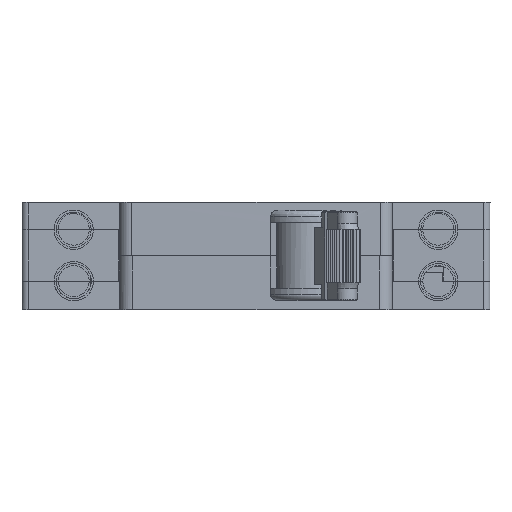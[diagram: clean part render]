
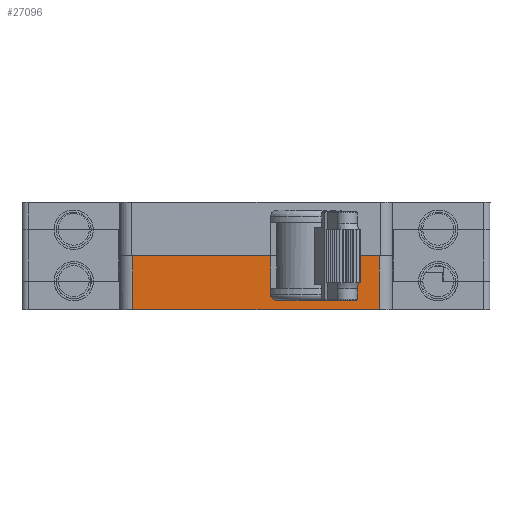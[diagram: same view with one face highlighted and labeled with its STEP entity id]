
A CAD part, front view. The second image highlights one B-rep face of the part: STEP entity #27096.
In plain terms, the highlighted planar face has unit normal (0, -1, 0) as drawn and (0, 1, 0) by its records, which use the part's own axes.
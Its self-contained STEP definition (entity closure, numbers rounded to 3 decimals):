
#1551 = CARTESIAN_POINT ( 'NONE',  ( -69.946, -30.412, -2.2 ) ) ;
#1608 = CARTESIAN_POINT ( 'NONE',  ( -75.384, -30.412, -4.7 ) ) ;
#1644 = CARTESIAN_POINT ( 'NONE',  ( -57.441, -30.412, -2.2 ) ) ;
#1645 = CARTESIAN_POINT ( 'NONE',  ( -75.384, -30.412, 4.2 ) ) ;
#1659 = CARTESIAN_POINT ( 'NONE',  ( -34.683, -30.412, -4.7 ) ) ;
#1868 = CARTESIAN_POINT ( 'NONE',  ( -57.446, -30.41, -1.2 ) ) ;
#1929 = CARTESIAN_POINT ( 'NONE',  ( -69.93, -30.405, -1.2 ) ) ;
#2003 = CARTESIAN_POINT ( 'NONE',  ( -58.661, -30.412, -3.2 ) ) ;
#2207 = CARTESIAN_POINT ( 'NONE',  ( -68.726, -30.412, -3.2 ) ) ;
#2284 = CARTESIAN_POINT ( 'NONE',  ( -34.683, -30.412, 4.2 ) ) ;
#2560 = CARTESIAN_POINT ( 'NONE',  ( -69.924, -30.412, 4.2 ) ) ;
#2838 = CARTESIAN_POINT ( 'NONE',  ( -57.454, -30.412, 4.2 ) ) ;
#4162 = CARTESIAN_POINT ( 'NONE',  ( -58.371, -30.412, -3.18 ) ) ;
#4171 = CARTESIAN_POINT ( 'NONE',  ( -58.514, -30.412, -3.2 ) ) ;
#4181 = CARTESIAN_POINT ( 'NONE',  ( -58.661, -30.412, -3.2 ) ) ;
#4182 = CARTESIAN_POINT ( 'NONE',  ( -69.924, -30.412, -3. ) ) ;
#4183 = CARTESIAN_POINT ( 'NONE',  ( -58.091, -30.412, -3.097 ) ) ;
#4185 = CARTESIAN_POINT ( 'NONE',  ( -57.958, -30.412, -3.034 ) ) ;
#4187 = CARTESIAN_POINT ( 'NONE',  ( -57.722, -30.412, -2.859 ) ) ;
#4189 = CARTESIAN_POINT ( 'NONE',  ( -57.621, -30.412, -2.748 ) ) ;
#4190 = CARTESIAN_POINT ( 'NONE',  ( -57.48, -30.412, -2.492 ) ) ;
#4192 = CARTESIAN_POINT ( 'NONE',  ( -57.441, -30.412, -2.348 ) ) ;
#4193 = CARTESIAN_POINT ( 'NONE',  ( -57.441, -30.412, -2.2 ) ) ;
#4263 = LINE ( 'NONE', #4182, #46998 ) ;
#4277 = DIRECTION ( 'NONE',  ( 0., 0., -1. ) ) ;
#4708 = LINE ( 'NONE', #4711, #47264 ) ;
#4711 = CARTESIAN_POINT ( 'NONE',  ( -75.384, -30.412, 59.617 ) ) ;
#4713 = DIRECTION ( 'NONE',  ( 0., 0., -1. ) ) ;
#4828 = LINE ( 'NONE', #4831, #47310 ) ;
#4831 = CARTESIAN_POINT ( 'NONE',  ( -55.034, -30.412, 4.2 ) ) ;
#4833 = DIRECTION ( 'NONE',  ( -1., 0., 0. ) ) ;
#4840 = CARTESIAN_POINT ( 'NONE',  ( -69.946, -30.412, -2.274 ) ) ;
#4844 = CARTESIAN_POINT ( 'NONE',  ( -69.936, -30.412, -2.346 ) ) ;
#4861 = CARTESIAN_POINT ( 'NONE',  ( -69.946, -30.412, -2.2 ) ) ;
#4863 = CARTESIAN_POINT ( 'NONE',  ( -69.9, -30.412, -2.487 ) ) ;
#4864 = CARTESIAN_POINT ( 'NONE',  ( -69.872, -30.412, -2.556 ) ) ;
#4866 = CARTESIAN_POINT ( 'NONE',  ( -69.767, -30.412, -2.747 ) ) ;
#4868 = CARTESIAN_POINT ( 'NONE',  ( -69.666, -30.412, -2.858 ) ) ;
#4870 = CARTESIAN_POINT ( 'NONE',  ( -69.431, -30.412, -3.033 ) ) ;
#4872 = CARTESIAN_POINT ( 'NONE',  ( -69.298, -30.412, -3.096 ) ) ;
#4873 = CARTESIAN_POINT ( 'NONE',  ( -69.017, -30.412, -3.18 ) ) ;
#4875 = CARTESIAN_POINT ( 'NONE',  ( -68.873, -30.412, -3.2 ) ) ;
#4877 = CARTESIAN_POINT ( 'NONE',  ( -68.726, -30.412, -3.2 ) ) ;
#5135 = LINE ( 'NONE', #5137, #47720 ) ;
#5137 = CARTESIAN_POINT ( 'NONE',  ( -55.034, -30.412, 4.2 ) ) ;
#5138 = DIRECTION ( 'NONE',  ( -1., 0., 0. ) ) ;
#5245 = LINE ( 'NONE', #5248, #47640 ) ;
#5248 = CARTESIAN_POINT ( 'NONE',  ( -57.441, -30.412, -1.2 ) ) ;
#5250 = DIRECTION ( 'NONE',  ( 0., 0., -1. ) ) ;
#6777 = EDGE_LOOP ( 'NONE', ( #49490, #49426, #48992, #49356, #49420, #48474, #48825, #48471, #49338, #48707, #48619, #48553 ) ) ;
#6835 = EDGE_CURVE ( 'NONE', #63269, #63625, #12357, .T. ) ;
#6849 = EDGE_CURVE ( 'NONE', #62665, #63770, #12376, .T. ) ;
#12357 = LINE ( 'NONE', #12358, #20411 ) ;
#12358 = CARTESIAN_POINT ( 'NONE',  ( -57.441, -30.412, -3.2 ) ) ;
#12363 = DIRECTION ( 'NONE',  ( -1., 0., 0. ) ) ;
#12374 = CARTESIAN_POINT ( 'NONE',  ( -34.683, -30.412, 59.617 ) ) ;
#12376 = LINE ( 'NONE', #12374, #20384 ) ;
#12381 = DIRECTION ( 'NONE',  ( 0., 0., 1. ) ) ;
#16731 = EDGE_CURVE ( 'NONE', #62449, #63141, #33559, .T. ) ;
#16740 = EDGE_CURVE ( 'NONE', #63028, #64482, #54279, .T. ) ;
#16779 = EDGE_CURVE ( 'NONE', #62563, #62665, #33702, .T. ) ;
#16980 = EDGE_CURVE ( 'NONE', #63269, #62635, #54358, .T. ) ;
#16985 = EDGE_CURVE ( 'NONE', #64255, #63141, #4263, .T. ) ;
#17052 = EDGE_CURVE ( 'NONE', #62637, #62563, #4708, .T. ) ;
#17062 = EDGE_CURVE ( 'NONE', #64255, #62637, #4828, .T. ) ;
#17067 = EDGE_CURVE ( 'NONE', #62449, #63625, #54381, .T. ) ;
#17088 = EDGE_CURVE ( 'NONE', #63770, #64482, #5135, .T. ) ;
#17096 = EDGE_CURVE ( 'NONE', #63028, #62635, #5245, .T. ) ;
#20384 = VECTOR ( 'NONE', #12381, 1000. ) ;
#20411 = VECTOR ( 'NONE', #12363, 1000. ) ;
#27096 = ADVANCED_FACE ( 'NONE', ( #69456 ), #69457, .T. ) ;
#33559 = LINE ( 'NONE', #33579, #47094 ) ;
#33579 = CARTESIAN_POINT ( 'NONE',  ( -69.946, -30.412, -3. ) ) ;
#33581 = DIRECTION ( 'NONE',  ( 0., 0., 1. ) ) ;
#33599 = CARTESIAN_POINT ( 'NONE',  ( -57.449, -30.412, 0.6 ) ) ;
#33600 = CARTESIAN_POINT ( 'NONE',  ( -57.451, -30.412, 2.4 ) ) ;
#33606 = CARTESIAN_POINT ( 'NONE',  ( -57.446, -30.41, -1.2 ) ) ;
#33608 = CARTESIAN_POINT ( 'NONE',  ( -57.454, -30.412, 4.2 ) ) ;
#33702 = LINE ( 'NONE', #33735, #47501 ) ;
#33735 = CARTESIAN_POINT ( 'NONE',  ( -75.384, -30.412, -4.7 ) ) ;
#33736 = DIRECTION ( 'NONE',  ( 1., 0., 0. ) ) ;
#46829 = AXIS2_PLACEMENT_3D ( 'NONE', #69442, #69463, #69464 ) ;
#46998 = VECTOR ( 'NONE', #4277, 1000. ) ;
#47094 = VECTOR ( 'NONE', #33581, 1000. ) ;
#47264 = VECTOR ( 'NONE', #4713, 1000. ) ;
#47310 = VECTOR ( 'NONE', #4833, 1000. ) ;
#47501 = VECTOR ( 'NONE', #33736, 1000. ) ;
#47640 = VECTOR ( 'NONE', #5250, 1000. ) ;
#47720 = VECTOR ( 'NONE', #5138, 1000. ) ;
#48471 = ORIENTED_EDGE ( 'NONE', *, *, #6835, .F. ) ;
#48474 = ORIENTED_EDGE ( 'NONE', *, *, #16731, .F. ) ;
#48553 = ORIENTED_EDGE ( 'NONE', *, *, #17088, .F. ) ;
#48619 = ORIENTED_EDGE ( 'NONE', *, *, #16740, .T. ) ;
#48707 = ORIENTED_EDGE ( 'NONE', *, *, #17096, .F. ) ;
#48825 = ORIENTED_EDGE ( 'NONE', *, *, #17067, .T. ) ;
#48992 = ORIENTED_EDGE ( 'NONE', *, *, #17052, .F. ) ;
#49338 = ORIENTED_EDGE ( 'NONE', *, *, #16980, .T. ) ;
#49356 = ORIENTED_EDGE ( 'NONE', *, *, #17062, .F. ) ;
#49420 = ORIENTED_EDGE ( 'NONE', *, *, #16985, .T. ) ;
#49426 = ORIENTED_EDGE ( 'NONE', *, *, #16779, .F. ) ;
#49490 = ORIENTED_EDGE ( 'NONE', *, *, #6849, .F. ) ;
#54279 = B_SPLINE_CURVE_WITH_KNOTS ( 'NONE', 3,
 ( #33606, #33599, #33600, #33608 ),
 .UNSPECIFIED., .F., .F.,
 ( 4, 4 ),
 ( 0., 1. ),
 .UNSPECIFIED. ) ;
#54358 = B_SPLINE_CURVE_WITH_KNOTS ( 'NONE', 3,
 ( #4181, #4171, #4162, #4183, #4185, #4187, #4189, #4190, #4192, #4193 ),
 .UNSPECIFIED., .F., .F.,
 ( 4, 2, 2, 2, 4 ),
 ( 0., 0., 0.001, 0.001, 0.002 ),
 .UNSPECIFIED. ) ;
#54381 = B_SPLINE_CURVE_WITH_KNOTS ( 'NONE', 3,
 ( #4861, #4840, #4844, #4863, #4864, #4866, #4868, #4870, #4872, #4873, #4875, #4877 ),
 .UNSPECIFIED., .F., .F.,
 ( 4, 2, 2, 2, 2, 4 ),
 ( 0., 0., 0., 0.001, 0.001, 0.002 ),
 .UNSPECIFIED. ) ;
#62449 = VERTEX_POINT ( 'NONE', #1551 ) ;
#62563 = VERTEX_POINT ( 'NONE', #1608 ) ;
#62635 = VERTEX_POINT ( 'NONE', #1644 ) ;
#62637 = VERTEX_POINT ( 'NONE', #1645 ) ;
#62665 = VERTEX_POINT ( 'NONE', #1659 ) ;
#63028 = VERTEX_POINT ( 'NONE', #1868 ) ;
#63141 = VERTEX_POINT ( 'NONE', #1929 ) ;
#63269 = VERTEX_POINT ( 'NONE', #2003 ) ;
#63625 = VERTEX_POINT ( 'NONE', #2207 ) ;
#63770 = VERTEX_POINT ( 'NONE', #2284 ) ;
#64255 = VERTEX_POINT ( 'NONE', #2560 ) ;
#64482 = VERTEX_POINT ( 'NONE', #2838 ) ;
#69442 = CARTESIAN_POINT ( 'NONE',  ( -58.484, -30.412, -7.15 ) ) ;
#69456 = FACE_OUTER_BOUND ( 'NONE', #6777, .T. ) ;
#69457 = PLANE ( 'NONE',  #46829 ) ;
#69463 = DIRECTION ( 'NONE',  ( 0., 1., 0. ) ) ;
#69464 = DIRECTION ( 'NONE',  ( 0., 0., 1. ) ) ;
